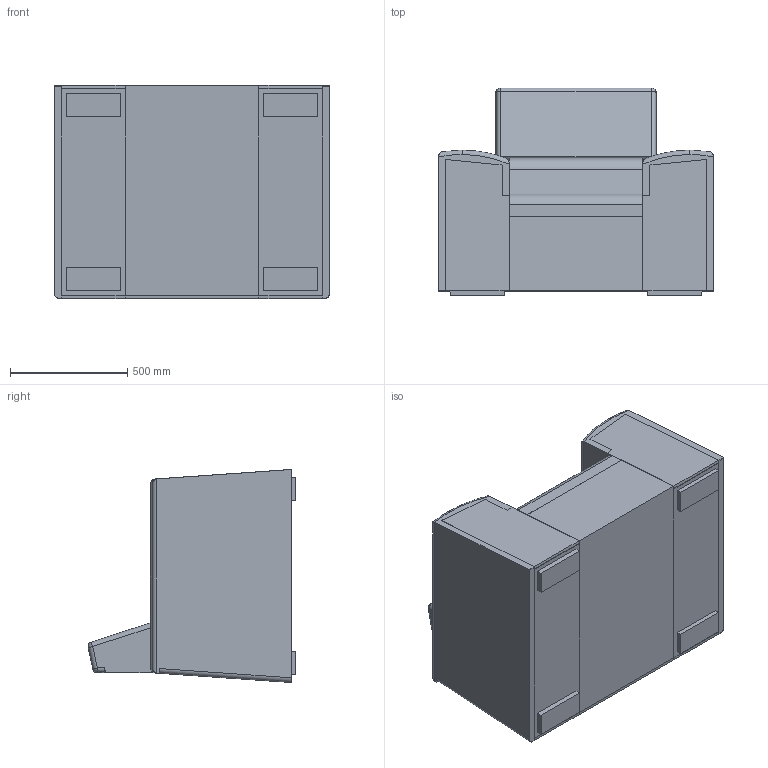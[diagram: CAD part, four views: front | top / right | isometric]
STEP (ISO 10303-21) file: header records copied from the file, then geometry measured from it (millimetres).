
FILE_DESCRIPTION (( 'STEP AP203' ), '1' );
FILE_NAME ('Rubus Single Seat Anti-stash.STEP', '2022-07-25T07:26:31', ( '' ), ( '' ), 'SwSTEP 2.0', 'SolidWorks 2022', '' );
FILE_SCHEMA (( 'CONFIG_CONTROL_DESIGN' ));
Length unit declared in the file: millimetre
Products named in the file (1): Rubus Single Seat Anti-stash
Bounding box: 1170 x 885.42 x 906.92 mm (x, y, z)
Volume: 163099291.4 mm3; surface area: 12428542.5 mm2
Topology: 6 solids, 6 shells, 215 faces, 578 edges, 362 vertices
Faces by surface type: plane 168, cylinder 37, bspline 6, sphere 4
Entity records: 7481 total; most frequent: CARTESIAN_POINT 2134, ORIENTED_EDGE 1148, DIRECTION 1022, EDGE_CURVE 574, VECTOR 462, LINE 462, VERTEX_POINT 362, AXIS2_PLACEMENT_3D 280
